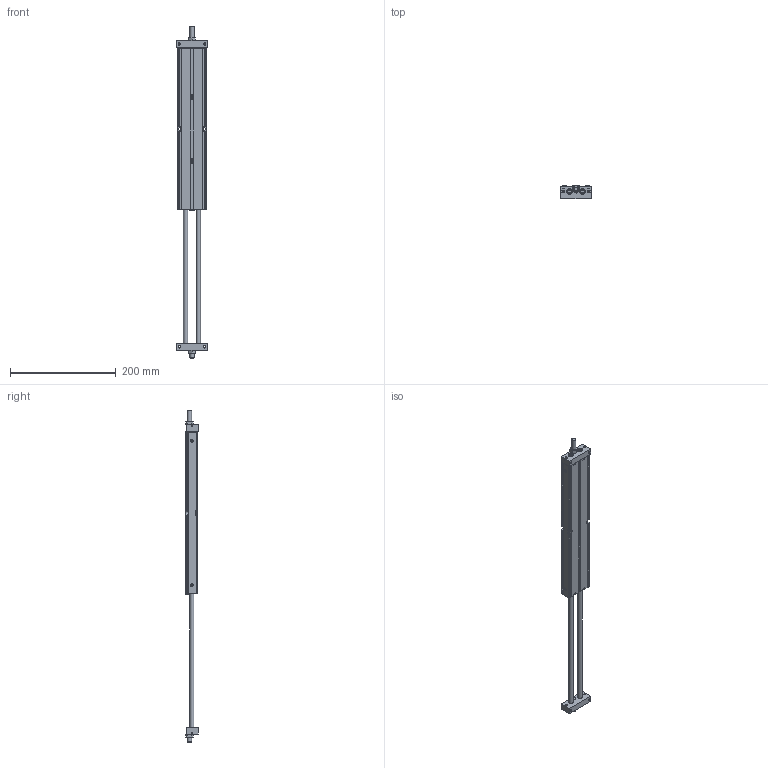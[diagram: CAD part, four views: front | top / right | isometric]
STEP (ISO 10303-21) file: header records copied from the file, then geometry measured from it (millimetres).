
FILE_DESCRIPTION((''),'2;1');
FILE_NAME('I:\3D電子目錄\氣缸\STU\STU\STU16\STU16x250.stp','2007-10-01T08:55:38',('Administrator'),(''),'Autodesk Inventor 11','Autodesk Inventor 11','');
FILE_SCHEMA(('AUTOMOTIVE_DESIGN { 1 0 10303 214 1 1 1 1 }'));
Length unit declared in the file: millimetre
Products named in the file (1): STU16
Bounding box: 58 x 24.51 x 627 mm (x, y, z)
Volume: 374433.7 mm3; surface area: 92825.6 mm2
Topology: 1 solids, 1 shells, 315 faces, 775 edges, 493 vertices
Faces by surface type: plane 161, cone 71, bspline 48, cylinder 35
Full cylindrical faces by diameter (mm): 2.459 x2, 8 x7, 8.5 x4, 9.5 x4, 18 x2, 19.2 x2
Entity records: 10033 total; most frequent: CARTESIAN_POINT 3278, ORIENTED_EDGE 1350, DIRECTION 1290, EDGE_CURVE 675, VERTEX_POINT 475, EDGE_LOOP 474, AXIS2_PLACEMENT_3D 473, VECTOR 344
